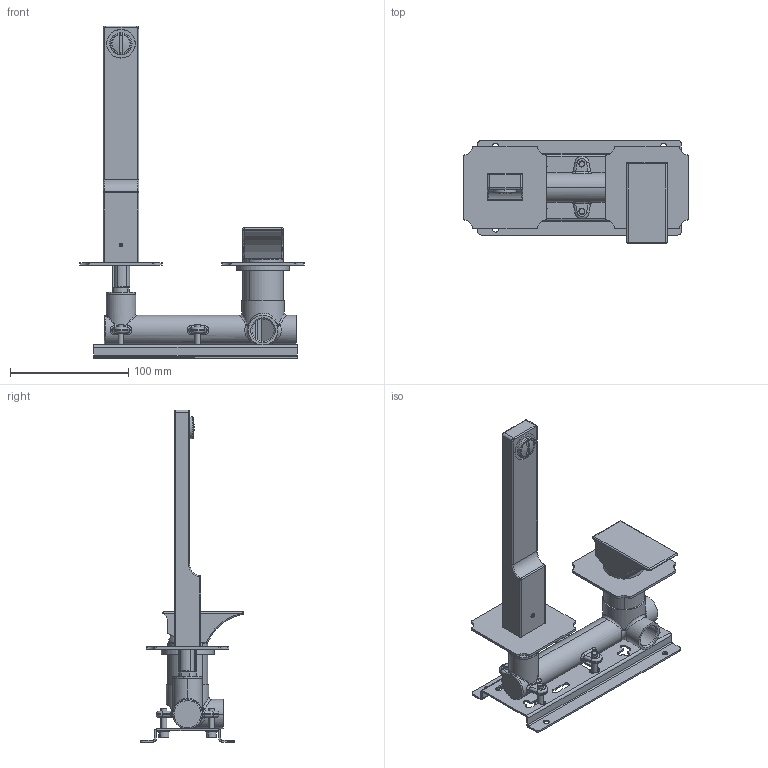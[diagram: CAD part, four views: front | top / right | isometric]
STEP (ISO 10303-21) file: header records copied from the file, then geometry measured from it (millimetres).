
FILE_DESCRIPTION (( 'STEP AP203' ), '1' );
FILE_NAME ('RJN84.STEP', '2023-11-24T15:34:33', ( '' ), ( '' ), 'SwSTEP 2.0', 'SolidWorks 2021', '' );
FILE_SCHEMA (( 'CONFIG_CONTROL_DESIGN' ));
Length unit declared in the file: millimetre
Products named in the file (26): EU0351_2; C25.1087.00.0; GRANCO M4x4 ACCIAIO; RJN84; GRANCO M5x6 ACCIAIO; C11.12.0020; C24.1560.00.0; C25.2348.00.1; OR3459262NBR; C24.0120.00.1; C18.23.0004; C24.1935.00.1; C25.2646.00.0; C13.00.0014; C47.00.0023.01; C10.00.0022; C21.1428.00.0; TSPEI M3x 8 ACC. INOX; ISN84; C24.2580.00.0; AS583_00; C11.10.0019; C12.00.0051; C25.1532.00.0; C24.1955.00.1; C12.00.0008
Assembly tree (34 placements, depth 3):
  RJN84
    GRANCO M4x4 ACCIAIO
    OR3459262NBR
    GRANCO M5x6 ACCIAIO
    C47.00.0023.01
    EU0351_2
    C24.1935.00.1
    TSPEI M3x 8 ACC. INOX  x2
    C13.00.0014
    ISN84
      C24.1955.00.1
      C24.0120.00.1
      C21.1428.00.0
      C12.00.0051  x3
      C12.00.0008
      C18.23.0004
      C24.1560.00.0
      C24.2580.00.0
      C10.00.0022
      C25.2348.00.1
      C11.10.0019  x4
      C11.12.0020  x4
    AS583_00
      C25.1532.00.0
      C25.1087.00.0
    C25.2646.00.0
Bounding box: 190 x 87.5 x 280.5 mm (x, y, z)
Volume: 251846.3 mm3; surface area: 157415.2 mm2
Topology: 34 solids, 34 shells, 1168 faces, 2747 edges, 1688 vertices
Faces by surface type: cylinder 456, plane 396, cone 140, torus 120, bspline 50, sphere 6
Entity records: 37956 total; most frequent: CARTESIAN_POINT 10581, DIRECTION 5352, ORIENTED_EDGE 4928, EDGE_CURVE 2464, AXIS2_PLACEMENT_3D 2123, VERTEX_POINT 1528, EDGE_LOOP 1178, LINE 1106
